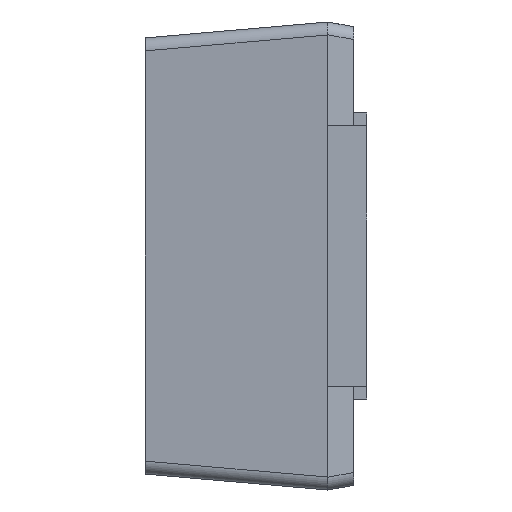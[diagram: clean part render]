
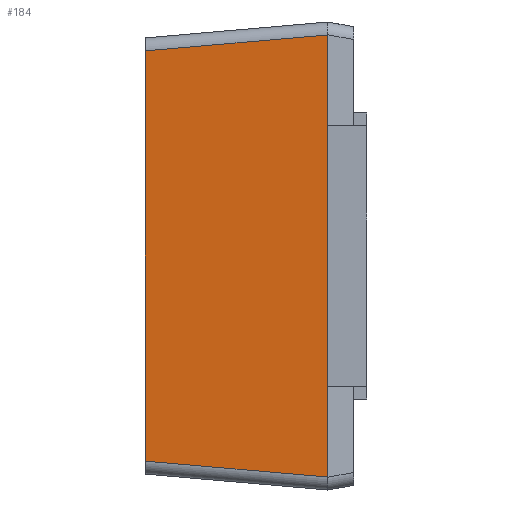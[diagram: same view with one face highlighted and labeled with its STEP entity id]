
A CAD part, left-side view. The second image highlights one B-rep face of the part: STEP entity #184.
In plain terms, the highlighted planar face has unit normal (-0.996, 0.087, 0).
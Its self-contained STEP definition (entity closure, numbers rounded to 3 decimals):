
#23 = VECTOR ( 'NONE', #80, 1000. ) ;
#80 = DIRECTION ( 'NONE',  ( 0., 0., 1. ) ) ;
#167 = EDGE_CURVE ( 'NONE', #402, #1525, #1710, .T. ) ;
#184 = ADVANCED_FACE ( 'NONE', ( #1302 ), #1467, .T. ) ;
#233 = VECTOR ( 'NONE', #1487, 1000. ) ;
#331 = CARTESIAN_POINT ( 'NONE',  ( -1.4, 0.15, -0.5 ) ) ;
#347 = DIRECTION ( 'NONE',  ( 0., 0., 1. ) ) ;
#370 = CARTESIAN_POINT ( 'NONE',  ( -1.4, 0.15, 0.9 ) ) ;
#402 = VERTEX_POINT ( 'NONE', #1426 ) ;
#416 = CARTESIAN_POINT ( 'NONE',  ( -1.333, 0.918, -0.783 ) ) ;
#491 = CARTESIAN_POINT ( 'NONE',  ( -1.4, 0.15, 0.9 ) ) ;
#513 = CARTESIAN_POINT ( 'NONE',  ( -1.339, 0.85, 0.789 ) ) ;
#605 = DIRECTION ( 'NONE',  ( -0.996, 0.087, 0. ) ) ;
#660 = CARTESIAN_POINT ( 'NONE',  ( -1.4, 0.15, 0.85 ) ) ;
#687 = EDGE_CURVE ( 'NONE', #1738, #1723, #1491, .T. ) ;
#780 = EDGE_CURVE ( 'NONE', #990, #402, #1262, .T. ) ;
#881 = LINE ( 'NONE', #1275, #1497 ) ;
#898 = DIRECTION ( 'NONE',  ( 0., 0., -1. ) ) ;
#967 = ORIENTED_EDGE ( 'NONE', *, *, #1235, .T. ) ;
#978 = DIRECTION ( 'NONE',  ( -0.087, -0.992, -0.087 ) ) ;
#990 = VERTEX_POINT ( 'NONE', #1573 ) ;
#1034 = EDGE_LOOP ( 'NONE', ( #1613, #1586, #1495, #1089, #1727, #967 ) ) ;
#1089 = ORIENTED_EDGE ( 'NONE', *, *, #780, .T. ) ;
#1114 = VECTOR ( 'NONE', #347, 1000. ) ;
#1134 = VERTEX_POINT ( 'NONE', #513 ) ;
#1142 = DIRECTION ( 'NONE',  ( 0., 0., 1. ) ) ;
#1165 = VECTOR ( 'NONE', #1376, 1000. ) ;
#1176 = CARTESIAN_POINT ( 'NONE',  ( -1.339, 0.85, 0. ) ) ;
#1196 = LINE ( 'NONE', #1698, #23 ) ;
#1235 = EDGE_CURVE ( 'NONE', #1525, #1738, #1196, .T. ) ;
#1262 = LINE ( 'NONE', #416, #1731 ) ;
#1275 = CARTESIAN_POINT ( 'NONE',  ( -1.339, 0.85, 0.9 ) ) ;
#1302 = FACE_OUTER_BOUND ( 'NONE', #1034, .T. ) ;
#1376 = DIRECTION ( 'NONE',  ( 0., 0., 1. ) ) ;
#1426 = CARTESIAN_POINT ( 'NONE',  ( -1.4, 0.15, -0.85 ) ) ;
#1467 = PLANE ( 'NONE',  #1650 ) ;
#1487 = DIRECTION ( 'NONE',  ( 0.087, 0.992, -0.087 ) ) ;
#1491 = LINE ( 'NONE', #370, #1165 ) ;
#1495 = ORIENTED_EDGE ( 'NONE', *, *, #1509, .F. ) ;
#1497 = VECTOR ( 'NONE', #1142, 1000. ) ;
#1509 = EDGE_CURVE ( 'NONE', #990, #1134, #881, .T. ) ;
#1515 = CARTESIAN_POINT ( 'NONE',  ( -1.4, 0.15, 0.5 ) ) ;
#1525 = VERTEX_POINT ( 'NONE', #331 ) ;
#1573 = CARTESIAN_POINT ( 'NONE',  ( -1.339, 0.85, -0.789 ) ) ;
#1586 = ORIENTED_EDGE ( 'NONE', *, *, #1778, .T. ) ;
#1613 = ORIENTED_EDGE ( 'NONE', *, *, #687, .T. ) ;
#1634 = LINE ( 'NONE', #1787, #233 ) ;
#1650 = AXIS2_PLACEMENT_3D ( 'NONE', #1176, #605, #898 ) ;
#1698 = CARTESIAN_POINT ( 'NONE',  ( -1.4, 0.15, 0.9 ) ) ;
#1710 = LINE ( 'NONE', #491, #1114 ) ;
#1723 = VERTEX_POINT ( 'NONE', #660 ) ;
#1727 = ORIENTED_EDGE ( 'NONE', *, *, #167, .T. ) ;
#1731 = VECTOR ( 'NONE', #978, 1000. ) ;
#1738 = VERTEX_POINT ( 'NONE', #1515 ) ;
#1778 = EDGE_CURVE ( 'NONE', #1723, #1134, #1634, .T. ) ;
#1787 = CARTESIAN_POINT ( 'NONE',  ( -1.333, 0.918, 0.783 ) ) ;
